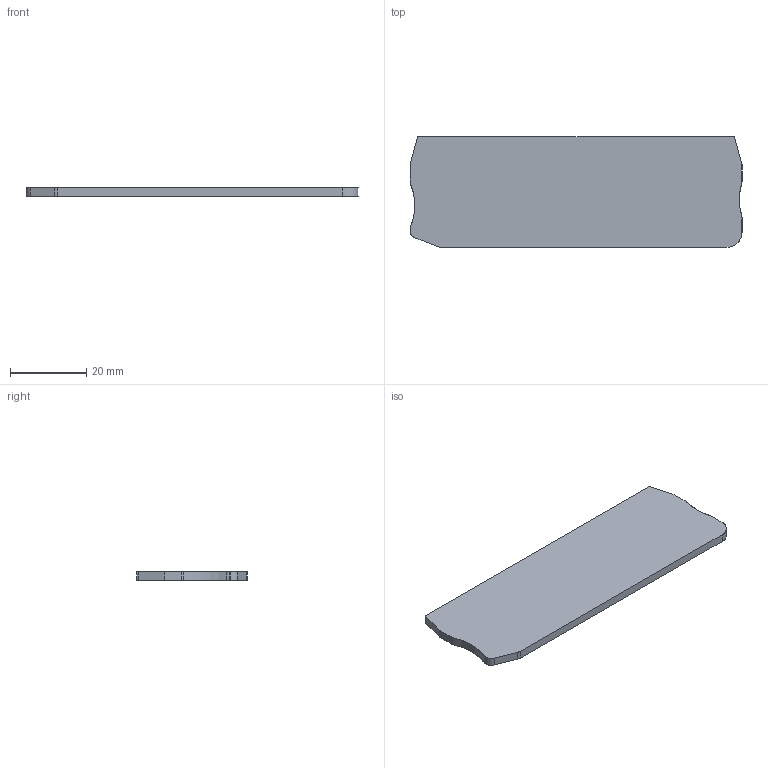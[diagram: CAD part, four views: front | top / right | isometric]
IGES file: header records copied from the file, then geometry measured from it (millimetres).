
Global section: file name: 3030527_d_st4quattro.igs; native system: OneSpace Designer 3D IGES; preprocessor: 11.50A  18-Jul-2002; date: 20040204.070356; units: millimetre
Bounding box: 87.1 x 29.05 x 2.2 mm (x, y, z)
Surface area: 5470.8 mm2 (no closed solid volume)
Topology: 0 solids, 0 shells, 24 faces, 182 edges, 182 vertices
Faces by surface type: bspline 24
